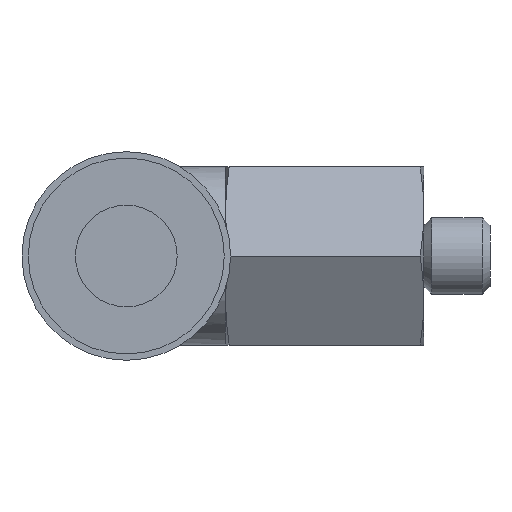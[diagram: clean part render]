
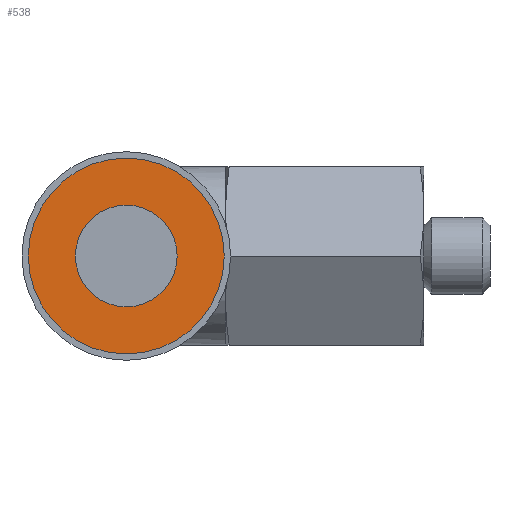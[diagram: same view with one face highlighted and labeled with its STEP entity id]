
A CAD part, left-side view. The second image highlights one B-rep face of the part: STEP entity #538.
In plain terms, the highlighted planar face has unit normal (-1, 0, 0).
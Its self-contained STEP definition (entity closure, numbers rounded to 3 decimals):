
#40=PLANE('',#614);
#188=ORIENTED_EDGE('',*,*,#272,.F.);
#189=ORIENTED_EDGE('',*,*,#273,.F.);
#272=EDGE_CURVE('',#320,#320,#354,.T.);
#273=EDGE_CURVE('',#321,#321,#355,.T.);
#320=VERTEX_POINT('',#996);
#321=VERTEX_POINT('',#998);
#354=CIRCLE('',#615,3.85);
#355=CIRCLE('',#616,2.);
#402=EDGE_LOOP('',(#188));
#403=EDGE_LOOP('',(#189));
#468=FACE_BOUND('',#402,.T.);
#469=FACE_BOUND('',#403,.T.);
#538=ADVANCED_FACE('',(#468,#469),#40,.F.);
#614=AXIS2_PLACEMENT_3D('',#994,#746,#747);
#615=AXIS2_PLACEMENT_3D('',#995,#748,#749);
#616=AXIS2_PLACEMENT_3D('',#997,#750,#751);
#746=DIRECTION('',(1.,0.,0.));
#747=DIRECTION('',(0.,1.,0.));
#748=DIRECTION('',(1.,0.,0.));
#749=DIRECTION('',(0.,1.,0.));
#750=DIRECTION('',(-1.,0.,0.));
#751=DIRECTION('',(0.,1.,0.));
#994=CARTESIAN_POINT('',(-15.4,11.7,0.));
#995=CARTESIAN_POINT('',(-15.4,11.7,0.));
#996=CARTESIAN_POINT('',(-15.4,15.55,0.));
#997=CARTESIAN_POINT('',(-15.4,11.7,0.));
#998=CARTESIAN_POINT('',(-15.4,13.7,0.));
